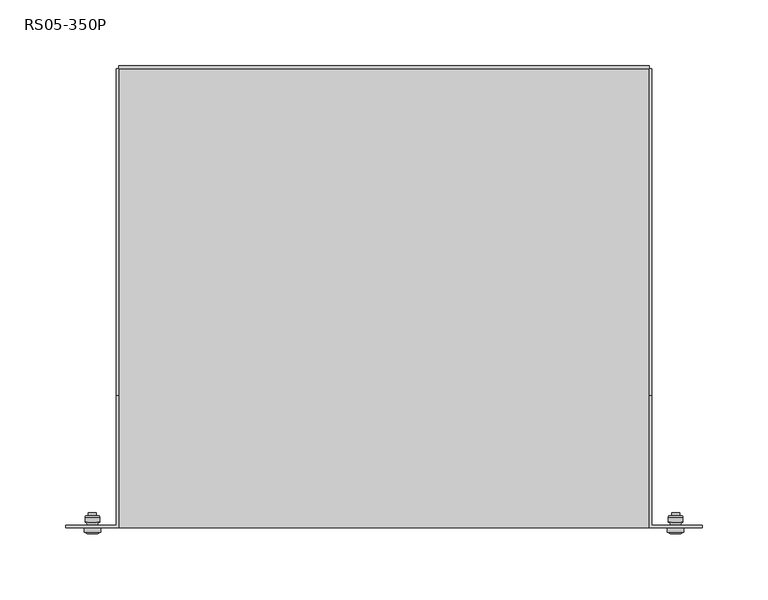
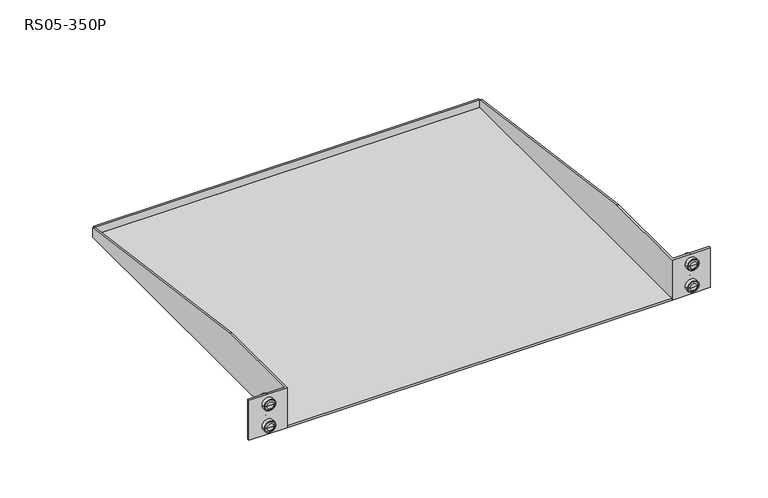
"""IFC4 building model written with IfcOpenShell, lengths in millimetres: proxy geometry, Полки консольные : RS05-350P."""

from ifc_helpers import new_model, si_unit, point, frame, origin, place, context, project, spatial, polyline, circle_curve, ellipse_curve, trimmed, outline, extrude, faceted_brep, source, transform, mapped, element, save
from ifc_brep_helpers import plane_surface, cylinder_surface, revolved_surface, advanced_brep


def rs05_350p_7bdc1934(model_context):
    return source(origin(), model_context, "Body", "SolidModel", [
        advanced_brep(
        [(221.0, -179.3500066, 34.0), (217.5000052, -179.3500066, 34.0), (224.4999948, -179.3500066, 34.0), (223.9999986, -163.7499958, 34.0), (218.0000014, -163.7499958, 34.0), (221.0, -163.7499958, 34.0), (223.9999986, -165.7999933, 34.0), (218.0000014, -165.7999933, 34.0), (225.4999942, -165.7999933, 34.0), (216.5000058, -165.7999933, 34.0), (226.4999948, -166.7999994, 34.0), (215.5000052, -166.7999994, 34.0), (226.4999962, -170.7999994, 34.0), (215.5000038, -170.7999994, 34.0), (225.1733431, -172.9999959, 34.0), (216.8266569, -172.9999959, 34.0), (227.2500015, -175.0, 34.0), (214.7499985, -175.0, 34.0), (216.8266569, -175.0, 34.0), (225.1733431, -175.0, 34.0), (227.2500015, -178.4999996, 34.0), (214.7499985, -178.4999996, 34.0), (226.3781586, -178.4999996, 34.0), (215.6218414, -178.4999996, 34.0)],
        [
            (0, 1),
            (1, 2, circle_curve(frame((221.0, -179.3500066, 34.0), z_axis=(0.0, -1.0, 0.0), x_axis=(-1.0, 0.0, 0.0)), 3.4999948)),
            (2, 0),
            (2, 1, circle_curve(frame((221.0, -179.3500066, 34.0), z_axis=(0.0, -1.0, 0.0), x_axis=(-1.0, 0.0, 0.0)), 3.4999948)),
            (3, 4, circle_curve(frame((221.0, -163.7499958, 34.0), z_axis=(0.0, 1.0, 0.0), x_axis=(-1.0, 0.0, 0.0)), 2.9999986)),
            (4, 5),
            (5, 3),
            (4, 3, circle_curve(frame((221.0, -163.7499958, 34.0), z_axis=(0.0, 1.0, 0.0), x_axis=(-1.0, 0.0, 0.0)), 2.9999986)),
            (6, 7, circle_curve(frame((221.0, -165.7999933, 34.0), z_axis=(0.0, 1.0, 0.0), x_axis=(-1.0, 0.0, 0.0)), 2.9999986)),
            (7, 4),
            (3, 6),
            (7, 6, circle_curve(frame((221.0, -165.7999933, 34.0), z_axis=(0.0, 1.0, 0.0), x_axis=(-1.0, 0.0, 0.0)), 2.9999986)),
            (8, 9, circle_curve(frame((221.0, -165.7999933, 34.0), z_axis=(0.0, 1.0, 0.0), x_axis=(-1.0, 0.0, 0.0)), 4.4999942)),
            (9, 7),
            (6, 8),
            (9, 8, circle_curve(frame((221.0, -165.7999933, 34.0), z_axis=(0.0, 1.0, 0.0), x_axis=(-1.0, 0.0, 0.0)), 4.4999942)),
            (10, 11, circle_curve(frame((221.0, -166.7999994, 34.0), z_axis=(0.0, 1.0, 0.0), x_axis=(-1.0, 0.0, 0.0)), 5.4999948)),
            (11, 9, circle_curve(frame((216.5000052, -166.7999994, 34.0), z_axis=(0.0, 0.0, -1.0), x_axis=(1.0, 0.0, 0.0)), 1.0)),
            (8, 10, circle_curve(frame((225.4999948, -166.7999994, 34.0), z_axis=(0.0, 0.0, -1.0), x_axis=(-1.0, 0.0, 0.0)), 1.0)),
            (11, 10, circle_curve(frame((221.0, -166.7999994, 34.0), z_axis=(0.0, 1.0, 0.0), x_axis=(-1.0, 0.0, 0.0)), 5.4999948)),
            (12, 13, circle_curve(frame((221.0, -170.7999994, 34.0), z_axis=(0.0, 1.0, 0.0), x_axis=(-1.0, 0.0, 0.0)), 5.4999962)),
            (13, 11),
            (10, 12),
            (13, 12, circle_curve(frame((221.0, -170.7999994, 34.0), z_axis=(0.0, 1.0, 0.0), x_axis=(-1.0, 0.0, 0.0)), 5.4999962)),
            (14, 15, circle_curve(frame((221.0, -172.9999959, 34.0), z_axis=(0.0, 1.0, 0.0), x_axis=(-1.0, 0.0, 0.0)), 4.1733431)),
            (15, 13, circle_curve(frame((215.5000052, -172.2999994, 34.0), z_axis=(0.0, 0.0, 1.0), x_axis=(1.0, 0.0, 0.0)), 1.5)),
            (12, 14, circle_curve(frame((226.4999948, -172.2999994, 34.0), z_axis=(0.0, 0.0, 1.0), x_axis=(-1.0, 0.0, 0.0)), 1.5)),
            (15, 14, circle_curve(frame((221.0, -172.9999959, 34.0), z_axis=(0.0, 1.0, 0.0), x_axis=(-1.0, 0.0, 0.0)), 4.1733431)),
            (16, 17, circle_curve(frame((221.0, -175.0, 34.0), z_axis=(0.0, 1.0, 0.0), x_axis=(-1.0, 0.0, 0.0)), 6.2500015)),
            (17, 18),
            (18, 19, circle_curve(frame((221.0, -175.0, 34.0), z_axis=(0.0, -1.0, 0.0), x_axis=(-1.0, 0.0, 0.0)), 4.1733431)),
            (19, 16),
            (17, 16, circle_curve(frame((221.0, -175.0, 34.0), z_axis=(0.0, 1.0, 0.0), x_axis=(-1.0, 0.0, 0.0)), 6.2500015)),
            (19, 18, circle_curve(frame((221.0, -175.0, 34.0), z_axis=(0.0, -1.0, 0.0), x_axis=(-1.0, 0.0, 0.0)), 4.1733431)),
            (20, 21, circle_curve(frame((221.0, -178.4999996, 34.0), z_axis=(0.0, 1.0, 0.0), x_axis=(-1.0, 0.0, 0.0)), 6.2500015)),
            (21, 17),
            (16, 20),
            (21, 20, circle_curve(frame((221.0, -178.4999996, 34.0), z_axis=(0.0, 1.0, 0.0), x_axis=(-1.0, 0.0, 0.0)), 6.2500015)),
            (22, 23, circle_curve(frame((221.0, -178.4999996, 34.0), z_axis=(0.0, 1.0, 0.0), x_axis=(-1.0, 0.0, 0.0)), 5.3781586)),
            (23, 21),
            (20, 22),
            (23, 22, circle_curve(frame((221.0, -178.4999996, 34.0), z_axis=(0.0, 1.0, 0.0), x_axis=(-1.0, 0.0, 0.0)), 5.3781586)),
            (1, 23, circle_curve(frame((217.5000052, -176.8499994, 34.0), z_axis=(0.0, 0.0, -1.0), x_axis=(1.0, 0.0, 0.0)), 2.5)),
            (22, 2, circle_curve(frame((224.4999948, -176.8499994, 34.0), z_axis=(0.0, 0.0, -1.0), x_axis=(-1.0, 0.0, 0.0)), 2.5)),
            (18, 15),
            (14, 19),
        ],
        [
            plane_surface(frame((221.0, -179.3500066, 34.0), z_axis=(0.0, -1.0, 0.0), x_axis=(-1.0, 0.0, 0.0))),
            plane_surface(frame((221.0, -163.7499958, 34.0), z_axis=(0.0, 1.0, 0.0), x_axis=(-1.0, 0.0, 0.0))),
            cylinder_surface(frame((221.0, 1825.0, 34.0), z_axis=(0.0, -1.0, 0.0), x_axis=(-1.0, 0.0, 0.0)), 2.9999986),
            plane_surface(frame((221.0, -165.7999933, 34.0), z_axis=(0.0, 1.0, 0.0), x_axis=(-1.0, 0.0, 0.0))),
            revolved_surface(trimmed(ellipse_curve(frame((216.5000052, -166.7999994, 34.0), z_axis=(0.0, 0.0, 1.0), x_axis=(1.0, 0.0, 0.0)), 1.0, 1.0), [point((216.5000052, -165.7999994, 34.0))], [point((215.5000052, -166.7999994, 34.0))], True, "CARTESIAN"), (221.0, 1825.0, 34.0), (0.0, -1.0, 0.0)),
            cylinder_surface(frame((221.0, 1825.0, 34.0), z_axis=(0.0, -1.0, 0.0), x_axis=(-1.0, 0.0, 0.0)), 5.4999962),
            revolved_surface(trimmed(ellipse_curve(frame((215.5000052, -172.2999994, 34.0), z_axis=(0.0, 0.0, -1.0), x_axis=(1.0, 0.0, 0.0)), 1.5, 1.5), [point((215.5000038, -170.7999994, 34.0))], [point((216.8266569, -172.9999959, 34.0))], True, "CARTESIAN"), (221.0, 1825.0, 34.0), (0.0, -1.0, 0.0)),
            plane_surface(frame((221.0, -175.0, 34.0), z_axis=(0.0, 1.0, 0.0), x_axis=(-1.0, 0.0, 0.0))),
            cylinder_surface(frame((221.0, 1825.0, 34.0), z_axis=(0.0, -1.0, 0.0), x_axis=(-1.0, 0.0, 0.0)), 6.2500015),
            plane_surface(frame((221.0, -178.4999996, 34.0), z_axis=(0.0, -1.0, 0.0), x_axis=(-1.0, 0.0, 0.0))),
            revolved_surface(trimmed(ellipse_curve(frame((217.5000052, -176.8499994, 34.0), z_axis=(0.0, 0.0, 1.0), x_axis=(1.0, 0.0, 0.0)), 2.5, 2.5), [point((215.6218414, -178.4999996, 34.0))], [point((217.5000052, -179.3499994, 34.0))], True, "CARTESIAN"), (221.0, 1825.0, 34.0), (0.0, -1.0, 0.0)),
            cylinder_surface(frame((221.0, 1825.0, 34.0), z_axis=(0.0, -1.0, 0.0), x_axis=(-1.0, 0.0, 0.0)), 4.1733431),
        ],
        [
            (0, [[1, 2, 3]]),
            (0, [[-3, 4, -1]]),
            (1, [[5, 6, 7]]),
            (1, [[8, -7, -6]]),
            (2, [[9, 10, -5, 11]]),
            (2, [[12, -11, -8, -10]]),
            (3, [[13, 14, -9, 15]]),
            (3, [[16, -15, -12, -14]]),
            (4, [[17, 18, -13, 19]]),
            (4, [[20, -19, -16, -18]]),
            (5, [[21, 22, -17, 23]]),
            (5, [[24, -23, -20, -22]]),
            (6, [[25, 26, -21, 27]]),
            (6, [[28, -27, -24, -26]]),
            (7, [[29, 30, 31, 32]]),
            (7, [[33, -32, 34, -30]]),
            (8, [[35, 36, -29, 37]]),
            (8, [[38, -37, -33, -36]]),
            (9, [[39, 40, -35, 41]]),
            (9, [[42, -41, -38, -40]]),
            (10, [[-2, 43, -39, 44]]),
            (10, [[-4, -44, -42, -43]]),
            (11, [[-31, 45, -25, 46]]),
            (11, [[-34, -46, -28, -45]]),
        ],
    ),
        advanced_brep(
        [(-221.0, -179.3500066, 34.0), (-224.4999948, -179.3500066, 34.0), (-217.5000052, -179.3500066, 34.0), (-218.0000014, -163.7499958, 34.0), (-223.9999986, -163.7499958, 34.0), (-221.0, -163.7499958, 34.0), (-218.0000014, -165.7999933, 34.0), (-223.9999986, -165.7999933, 34.0), (-216.5000058, -165.7999933, 34.0), (-225.4999942, -165.7999933, 34.0), (-215.5000052, -166.7999994, 34.0), (-226.4999948, -166.7999994, 34.0), (-215.5000038, -170.7999994, 34.0), (-226.4999962, -170.7999994, 34.0), (-216.8266569, -172.9999959, 34.0), (-225.1733431, -172.9999959, 34.0), (-214.7499985, -175.0, 34.0), (-227.2500015, -175.0, 34.0), (-225.1733431, -175.0, 34.0), (-216.8266569, -175.0, 34.0), (-214.7499985, -178.4999996, 34.0), (-227.2500015, -178.4999996, 34.0), (-215.6218414, -178.4999996, 34.0), (-226.3781586, -178.4999996, 34.0)],
        [
            (0, 1),
            (1, 2, circle_curve(frame((-221.0, -179.3500066, 34.0), z_axis=(0.0, -1.0, 0.0), x_axis=(-1.0, 0.0, 0.0)), 3.4999948)),
            (2, 0),
            (2, 1, circle_curve(frame((-221.0, -179.3500066, 34.0), z_axis=(0.0, -1.0, 0.0), x_axis=(-1.0, 0.0, 0.0)), 3.4999948)),
            (3, 4, circle_curve(frame((-221.0, -163.7499958, 34.0), z_axis=(0.0, 1.0, 0.0), x_axis=(-1.0, 0.0, 0.0)), 2.9999986)),
            (4, 5),
            (5, 3),
            (4, 3, circle_curve(frame((-221.0, -163.7499958, 34.0), z_axis=(0.0, 1.0, 0.0), x_axis=(-1.0, 0.0, 0.0)), 2.9999986)),
            (6, 7, circle_curve(frame((-221.0, -165.7999933, 34.0), z_axis=(0.0, 1.0, 0.0), x_axis=(-1.0, 0.0, 0.0)), 2.9999986)),
            (7, 4),
            (3, 6),
            (7, 6, circle_curve(frame((-221.0, -165.7999933, 34.0), z_axis=(0.0, 1.0, 0.0), x_axis=(-1.0, 0.0, 0.0)), 2.9999986)),
            (8, 9, circle_curve(frame((-221.0, -165.7999933, 34.0), z_axis=(0.0, 1.0, 0.0), x_axis=(-1.0, 0.0, 0.0)), 4.4999942)),
            (9, 7),
            (6, 8),
            (9, 8, circle_curve(frame((-221.0, -165.7999933, 34.0), z_axis=(0.0, 1.0, 0.0), x_axis=(-1.0, 0.0, 0.0)), 4.4999942)),
            (10, 11, circle_curve(frame((-221.0, -166.7999994, 34.0), z_axis=(0.0, 1.0, 0.0), x_axis=(-1.0, 0.0, 0.0)), 5.4999948)),
            (11, 9, circle_curve(frame((-225.4999948, -166.7999994, 34.0), z_axis=(0.0, 0.0, -1.0), x_axis=(1.0, 0.0, 0.0)), 1.0)),
            (8, 10, circle_curve(frame((-216.5000052, -166.7999994, 34.0), z_axis=(0.0, 0.0, -1.0), x_axis=(-1.0, 0.0, 0.0)), 1.0)),
            (11, 10, circle_curve(frame((-221.0, -166.7999994, 34.0), z_axis=(0.0, 1.0, 0.0), x_axis=(-1.0, 0.0, 0.0)), 5.4999948)),
            (12, 13, circle_curve(frame((-221.0, -170.7999994, 34.0), z_axis=(0.0, 1.0, 0.0), x_axis=(-1.0, 0.0, 0.0)), 5.4999962)),
            (13, 11),
            (10, 12),
            (13, 12, circle_curve(frame((-221.0, -170.7999994, 34.0), z_axis=(0.0, 1.0, 0.0), x_axis=(-1.0, 0.0, 0.0)), 5.4999962)),
            (14, 15, circle_curve(frame((-221.0, -172.9999959, 34.0), z_axis=(0.0, 1.0, 0.0), x_axis=(-1.0, 0.0, 0.0)), 4.1733431)),
            (15, 13, circle_curve(frame((-226.4999948, -172.2999994, 34.0), z_axis=(0.0, 0.0, 1.0), x_axis=(1.0, 0.0, 0.0)), 1.5)),
            (12, 14, circle_curve(frame((-215.5000052, -172.2999994, 34.0), z_axis=(0.0, 0.0, 1.0), x_axis=(-1.0, 0.0, 0.0)), 1.5)),
            (15, 14, circle_curve(frame((-221.0, -172.9999959, 34.0), z_axis=(0.0, 1.0, 0.0), x_axis=(-1.0, 0.0, 0.0)), 4.1733431)),
            (16, 17, circle_curve(frame((-221.0, -175.0, 34.0), z_axis=(0.0, 1.0, 0.0), x_axis=(-1.0, 0.0, 0.0)), 6.2500015)),
            (17, 18),
            (18, 19, circle_curve(frame((-221.0, -175.0, 34.0), z_axis=(0.0, -1.0, 0.0), x_axis=(-1.0, 0.0, 0.0)), 4.1733431)),
            (19, 16),
            (17, 16, circle_curve(frame((-221.0, -175.0, 34.0), z_axis=(0.0, 1.0, 0.0), x_axis=(-1.0, 0.0, 0.0)), 6.2500015)),
            (19, 18, circle_curve(frame((-221.0, -175.0, 34.0), z_axis=(0.0, -1.0, 0.0), x_axis=(-1.0, 0.0, 0.0)), 4.1733431)),
            (20, 21, circle_curve(frame((-221.0, -178.4999996, 34.0), z_axis=(0.0, 1.0, 0.0), x_axis=(-1.0, 0.0, 0.0)), 6.2500015)),
            (21, 17),
            (16, 20),
            (21, 20, circle_curve(frame((-221.0, -178.4999996, 34.0), z_axis=(0.0, 1.0, 0.0), x_axis=(-1.0, 0.0, 0.0)), 6.2500015)),
            (22, 23, circle_curve(frame((-221.0, -178.4999996, 34.0), z_axis=(0.0, 1.0, 0.0), x_axis=(-1.0, 0.0, 0.0)), 5.3781586)),
            (23, 21),
            (20, 22),
            (23, 22, circle_curve(frame((-221.0, -178.4999996, 34.0), z_axis=(0.0, 1.0, 0.0), x_axis=(-1.0, 0.0, 0.0)), 5.3781586)),
            (1, 23, circle_curve(frame((-224.4999948, -176.8499994, 34.0), z_axis=(0.0, 0.0, -1.0), x_axis=(1.0, 0.0, 0.0)), 2.5)),
            (22, 2, circle_curve(frame((-217.5000052, -176.8499994, 34.0), z_axis=(0.0, 0.0, -1.0), x_axis=(-1.0, 0.0, 0.0)), 2.5)),
            (18, 15),
            (14, 19),
        ],
        [
            plane_surface(frame((-221.0, -179.3500066, 34.0), z_axis=(0.0, -1.0, 0.0), x_axis=(-1.0, 0.0, 0.0))),
            plane_surface(frame((-221.0, -163.7499958, 34.0), z_axis=(0.0, 1.0, 0.0), x_axis=(-1.0, 0.0, 0.0))),
            cylinder_surface(frame((-221.0, 1825.0, 34.0), z_axis=(0.0, -1.0, 0.0), x_axis=(-1.0, 0.0, 0.0)), 2.9999986),
            plane_surface(frame((-221.0, -165.7999933, 34.0), z_axis=(0.0, 1.0, 0.0), x_axis=(-1.0, 0.0, 0.0))),
            revolved_surface(trimmed(ellipse_curve(frame((-225.4999948, -166.7999994, 34.0), z_axis=(0.0, 0.0, 1.0), x_axis=(1.0, 0.0, 0.0)), 1.0, 1.0), [point((-225.4999948, -165.7999994, 34.0))], [point((-226.4999948, -166.7999994, 34.0))], True, "CARTESIAN"), (-221.0, 1825.0, 34.0), (0.0, -1.0, 0.0)),
            cylinder_surface(frame((-221.0, 1825.0, 34.0), z_axis=(0.0, -1.0, 0.0), x_axis=(-1.0, 0.0, 0.0)), 5.4999962),
            revolved_surface(trimmed(ellipse_curve(frame((-226.4999948, -172.2999994, 34.0), z_axis=(0.0, 0.0, -1.0), x_axis=(1.0, 0.0, 0.0)), 1.5, 1.5), [point((-226.4999962, -170.7999994, 34.0))], [point((-225.1733431, -172.9999959, 34.0))], True, "CARTESIAN"), (-221.0, 1825.0, 34.0), (0.0, -1.0, 0.0)),
            plane_surface(frame((-221.0, -175.0, 34.0), z_axis=(0.0, 1.0, 0.0), x_axis=(-1.0, 0.0, 0.0))),
            cylinder_surface(frame((-221.0, 1825.0, 34.0), z_axis=(0.0, -1.0, 0.0), x_axis=(-1.0, 0.0, 0.0)), 6.2500015),
            plane_surface(frame((-221.0, -178.4999996, 34.0), z_axis=(0.0, -1.0, 0.0), x_axis=(-1.0, 0.0, 0.0))),
            revolved_surface(trimmed(ellipse_curve(frame((-224.4999948, -176.8499994, 34.0), z_axis=(0.0, 0.0, 1.0), x_axis=(1.0, 0.0, 0.0)), 2.5, 2.5), [point((-226.3781586, -178.4999996, 34.0))], [point((-224.4999948, -179.3499994, 34.0))], True, "CARTESIAN"), (-221.0, 1825.0, 34.0), (0.0, -1.0, 0.0)),
            cylinder_surface(frame((-221.0, 1825.0, 34.0), z_axis=(0.0, -1.0, 0.0), x_axis=(-1.0, 0.0, 0.0)), 4.1733431),
        ],
        [
            (0, [[1, 2, 3]]),
            (0, [[-3, 4, -1]]),
            (1, [[5, 6, 7]]),
            (1, [[8, -7, -6]]),
            (2, [[9, 10, -5, 11]]),
            (2, [[12, -11, -8, -10]]),
            (3, [[13, 14, -9, 15]]),
            (3, [[16, -15, -12, -14]]),
            (4, [[17, 18, -13, 19]]),
            (4, [[20, -19, -16, -18]]),
            (5, [[21, 22, -17, 23]]),
            (5, [[24, -23, -20, -22]]),
            (6, [[25, 26, -21, 27]]),
            (6, [[28, -27, -24, -26]]),
            (7, [[29, 30, 31, 32]]),
            (7, [[33, -32, 34, -30]]),
            (8, [[35, 36, -29, 37]]),
            (8, [[38, -37, -33, -36]]),
            (9, [[39, 40, -35, 41]]),
            (9, [[42, -41, -38, -40]]),
            (10, [[-2, 43, -39, 44]]),
            (10, [[-4, -44, -42, -43]]),
            (11, [[-31, 45, -25, 46]]),
            (11, [[-34, -46, -28, -45]]),
        ],
    ),
        advanced_brep(
        [(221.0, -179.3500066, 10.0), (217.5000052, -179.3500066, 10.0), (224.4999948, -179.3500066, 10.0), (223.9999986, -163.7499958, 10.0), (218.0000014, -163.7499958, 10.0), (221.0, -163.7499958, 10.0), (223.9999986, -165.7999933, 10.0), (218.0000014, -165.7999933, 10.0), (225.4999942, -165.7999933, 10.0), (216.5000058, -165.7999933, 10.0), (226.4999948, -166.7999994, 10.0), (215.5000052, -166.7999994, 10.0), (226.4999962, -170.7999994, 10.0), (215.5000038, -170.7999994, 10.0), (225.1733431, -172.9999959, 10.0), (216.8266569, -172.9999959, 10.0), (227.2500015, -175.0, 10.0), (214.7499985, -175.0, 10.0), (216.8266569, -175.0, 10.0), (225.1733431, -175.0, 10.0), (227.2500015, -178.4999996, 10.0), (214.7499985, -178.4999996, 10.0), (226.3781586, -178.4999996, 10.0), (215.6218414, -178.4999996, 10.0)],
        [
            (0, 1),
            (1, 2, circle_curve(frame((221.0, -179.3500066, 10.0), z_axis=(0.0, -1.0, 0.0), x_axis=(-1.0, 0.0, 0.0)), 3.4999948)),
            (2, 0),
            (2, 1, circle_curve(frame((221.0, -179.3500066, 10.0), z_axis=(0.0, -1.0, 0.0), x_axis=(-1.0, 0.0, 0.0)), 3.4999948)),
            (3, 4, circle_curve(frame((221.0, -163.7499958, 10.0), z_axis=(0.0, 1.0, 0.0), x_axis=(-1.0, 0.0, 0.0)), 2.9999986)),
            (4, 5),
            (5, 3),
            (4, 3, circle_curve(frame((221.0, -163.7499958, 10.0), z_axis=(0.0, 1.0, 0.0), x_axis=(-1.0, 0.0, 0.0)), 2.9999986)),
            (6, 7, circle_curve(frame((221.0, -165.7999933, 10.0), z_axis=(0.0, 1.0, 0.0), x_axis=(-1.0, 0.0, 0.0)), 2.9999986)),
            (7, 4),
            (3, 6),
            (7, 6, circle_curve(frame((221.0, -165.7999933, 10.0), z_axis=(0.0, 1.0, 0.0), x_axis=(-1.0, 0.0, 0.0)), 2.9999986)),
            (8, 9, circle_curve(frame((221.0, -165.7999933, 10.0), z_axis=(0.0, 1.0, 0.0), x_axis=(-1.0, 0.0, 0.0)), 4.4999942)),
            (9, 7),
            (6, 8),
            (9, 8, circle_curve(frame((221.0, -165.7999933, 10.0), z_axis=(0.0, 1.0, 0.0), x_axis=(-1.0, 0.0, 0.0)), 4.4999942)),
            (10, 11, circle_curve(frame((221.0, -166.7999994, 10.0), z_axis=(0.0, 1.0, 0.0), x_axis=(-1.0, 0.0, 0.0)), 5.4999948)),
            (11, 9, circle_curve(frame((216.5000052, -166.7999994, 10.0), z_axis=(0.0, 0.0, -1.0), x_axis=(1.0, 0.0, 0.0)), 1.0)),
            (8, 10, circle_curve(frame((225.4999948, -166.7999994, 10.0), z_axis=(0.0, 0.0, -1.0), x_axis=(-1.0, 0.0, 0.0)), 1.0)),
            (11, 10, circle_curve(frame((221.0, -166.7999994, 10.0), z_axis=(0.0, 1.0, 0.0), x_axis=(-1.0, 0.0, 0.0)), 5.4999948)),
            (12, 13, circle_curve(frame((221.0, -170.7999994, 10.0), z_axis=(0.0, 1.0, 0.0), x_axis=(-1.0, 0.0, 0.0)), 5.4999962)),
            (13, 11),
            (10, 12),
            (13, 12, circle_curve(frame((221.0, -170.7999994, 10.0), z_axis=(0.0, 1.0, 0.0), x_axis=(-1.0, 0.0, 0.0)), 5.4999962)),
            (14, 15, circle_curve(frame((221.0, -172.9999959, 10.0), z_axis=(0.0, 1.0, 0.0), x_axis=(-1.0, 0.0, 0.0)), 4.1733431)),
            (15, 13, circle_curve(frame((215.5000052, -172.2999994, 10.0), z_axis=(0.0, 0.0, 1.0), x_axis=(1.0, 0.0, 0.0)), 1.5)),
            (12, 14, circle_curve(frame((226.4999948, -172.2999994, 10.0), z_axis=(0.0, 0.0, 1.0), x_axis=(-1.0, 0.0, 0.0)), 1.5)),
            (15, 14, circle_curve(frame((221.0, -172.9999959, 10.0), z_axis=(0.0, 1.0, 0.0), x_axis=(-1.0, 0.0, 0.0)), 4.1733431)),
            (16, 17, circle_curve(frame((221.0, -175.0, 10.0), z_axis=(0.0, 1.0, 0.0), x_axis=(-1.0, 0.0, 0.0)), 6.2500015)),
            (17, 18),
            (18, 19, circle_curve(frame((221.0, -175.0, 10.0), z_axis=(0.0, -1.0, 0.0), x_axis=(-1.0, 0.0, 0.0)), 4.1733431)),
            (19, 16),
            (17, 16, circle_curve(frame((221.0, -175.0, 10.0), z_axis=(0.0, 1.0, 0.0), x_axis=(-1.0, 0.0, 0.0)), 6.2500015)),
            (19, 18, circle_curve(frame((221.0, -175.0, 10.0), z_axis=(0.0, -1.0, 0.0), x_axis=(-1.0, 0.0, 0.0)), 4.1733431)),
            (20, 21, circle_curve(frame((221.0, -178.4999996, 10.0), z_axis=(0.0, 1.0, 0.0), x_axis=(-1.0, 0.0, 0.0)), 6.2500015)),
            (21, 17),
            (16, 20),
            (21, 20, circle_curve(frame((221.0, -178.4999996, 10.0), z_axis=(0.0, 1.0, 0.0), x_axis=(-1.0, 0.0, 0.0)), 6.2500015)),
            (22, 23, circle_curve(frame((221.0, -178.4999996, 10.0), z_axis=(0.0, 1.0, 0.0), x_axis=(-1.0, 0.0, 0.0)), 5.3781586)),
            (23, 21),
            (20, 22),
            (23, 22, circle_curve(frame((221.0, -178.4999996, 10.0), z_axis=(0.0, 1.0, 0.0), x_axis=(-1.0, 0.0, 0.0)), 5.3781586)),
            (1, 23, circle_curve(frame((217.5000052, -176.8499994, 10.0), z_axis=(0.0, 0.0, -1.0), x_axis=(1.0, 0.0, 0.0)), 2.5)),
            (22, 2, circle_curve(frame((224.4999948, -176.8499994, 10.0), z_axis=(0.0, 0.0, -1.0), x_axis=(-1.0, 0.0, 0.0)), 2.5)),
            (18, 15),
            (14, 19),
        ],
        [
            plane_surface(frame((221.0, -179.3500066, 10.0), z_axis=(0.0, -1.0, 0.0), x_axis=(-1.0, 0.0, 0.0))),
            plane_surface(frame((221.0, -163.7499958, 10.0), z_axis=(0.0, 1.0, 0.0), x_axis=(-1.0, 0.0, 0.0))),
            cylinder_surface(frame((221.0, 1825.0, 10.0), z_axis=(0.0, -1.0, 0.0), x_axis=(-1.0, 0.0, 0.0)), 2.9999986),
            plane_surface(frame((221.0, -165.7999933, 10.0), z_axis=(0.0, 1.0, 0.0), x_axis=(-1.0, 0.0, 0.0))),
            revolved_surface(trimmed(ellipse_curve(frame((216.5000052, -166.7999994, 10.0), z_axis=(0.0, 0.0, 1.0), x_axis=(1.0, 0.0, 0.0)), 1.0, 1.0), [point((216.5000052, -165.7999994, 10.0))], [point((215.5000052, -166.7999994, 10.0))], True, "CARTESIAN"), (221.0, 1825.0, 10.0), (0.0, -1.0, 0.0)),
            cylinder_surface(frame((221.0, 1825.0, 10.0), z_axis=(0.0, -1.0, 0.0), x_axis=(-1.0, 0.0, 0.0)), 5.4999962),
            revolved_surface(trimmed(ellipse_curve(frame((215.5000052, -172.2999994, 10.0), z_axis=(0.0, 0.0, -1.0), x_axis=(1.0, 0.0, 0.0)), 1.5, 1.5), [point((215.5000038, -170.7999994, 10.0))], [point((216.8266569, -172.9999959, 10.0))], True, "CARTESIAN"), (221.0, 1825.0, 10.0), (0.0, -1.0, 0.0)),
            plane_surface(frame((221.0, -175.0, 10.0), z_axis=(0.0, 1.0, 0.0), x_axis=(-1.0, 0.0, 0.0))),
            cylinder_surface(frame((221.0, 1825.0, 10.0), z_axis=(0.0, -1.0, 0.0), x_axis=(-1.0, 0.0, 0.0)), 6.2500015),
            plane_surface(frame((221.0, -178.4999996, 10.0), z_axis=(0.0, -1.0, 0.0), x_axis=(-1.0, 0.0, 0.0))),
            revolved_surface(trimmed(ellipse_curve(frame((217.5000052, -176.8499994, 10.0), z_axis=(0.0, 0.0, 1.0), x_axis=(1.0, 0.0, 0.0)), 2.5, 2.5), [point((215.6218414, -178.4999996, 10.0))], [point((217.5000052, -179.3499994, 10.0))], True, "CARTESIAN"), (221.0, 1825.0, 10.0), (0.0, -1.0, 0.0)),
            cylinder_surface(frame((221.0, 1825.0, 10.0), z_axis=(0.0, -1.0, 0.0), x_axis=(-1.0, 0.0, 0.0)), 4.1733431),
        ],
        [
            (0, [[1, 2, 3]]),
            (0, [[-3, 4, -1]]),
            (1, [[5, 6, 7]]),
            (1, [[8, -7, -6]]),
            (2, [[9, 10, -5, 11]]),
            (2, [[12, -11, -8, -10]]),
            (3, [[13, 14, -9, 15]]),
            (3, [[16, -15, -12, -14]]),
            (4, [[17, 18, -13, 19]]),
            (4, [[20, -19, -16, -18]]),
            (5, [[21, 22, -17, 23]]),
            (5, [[24, -23, -20, -22]]),
            (6, [[25, 26, -21, 27]]),
            (6, [[28, -27, -24, -26]]),
            (7, [[29, 30, 31, 32]]),
            (7, [[33, -32, 34, -30]]),
            (8, [[35, 36, -29, 37]]),
            (8, [[38, -37, -33, -36]]),
            (9, [[39, 40, -35, 41]]),
            (9, [[42, -41, -38, -40]]),
            (10, [[-2, 43, -39, 44]]),
            (10, [[-4, -44, -42, -43]]),
            (11, [[-31, 45, -25, 46]]),
            (11, [[-34, -46, -28, -45]]),
        ],
    ),
        advanced_brep(
        [(-221.0, -179.3500066, 10.0), (-224.4999948, -179.3500066, 10.0), (-217.5000052, -179.3500066, 10.0), (-218.0000014, -163.7499958, 10.0), (-223.9999986, -163.7499958, 10.0), (-221.0, -163.7499958, 10.0), (-218.0000014, -165.7999933, 10.0), (-223.9999986, -165.7999933, 10.0), (-216.5000058, -165.7999933, 10.0), (-225.4999942, -165.7999933, 10.0), (-215.5000052, -166.7999994, 10.0), (-226.4999948, -166.7999994, 10.0), (-215.5000038, -170.7999994, 10.0), (-226.4999962, -170.7999994, 10.0), (-216.8266569, -172.9999959, 10.0), (-225.1733431, -172.9999959, 10.0), (-214.7499985, -175.0, 10.0), (-227.2500015, -175.0, 10.0), (-225.1733431, -175.0, 10.0), (-216.8266569, -175.0, 10.0), (-214.7499985, -178.4999996, 10.0), (-227.2500015, -178.4999996, 10.0), (-215.6218414, -178.4999996, 10.0), (-226.3781586, -178.4999996, 10.0)],
        [
            (0, 1),
            (1, 2, circle_curve(frame((-221.0, -179.3500066, 10.0), z_axis=(0.0, -1.0, 0.0), x_axis=(-1.0, 0.0, 0.0)), 3.4999948)),
            (2, 0),
            (2, 1, circle_curve(frame((-221.0, -179.3500066, 10.0), z_axis=(0.0, -1.0, 0.0), x_axis=(-1.0, 0.0, 0.0)), 3.4999948)),
            (3, 4, circle_curve(frame((-221.0, -163.7499958, 10.0), z_axis=(0.0, 1.0, 0.0), x_axis=(-1.0, 0.0, 0.0)), 2.9999986)),
            (4, 5),
            (5, 3),
            (4, 3, circle_curve(frame((-221.0, -163.7499958, 10.0), z_axis=(0.0, 1.0, 0.0), x_axis=(-1.0, 0.0, 0.0)), 2.9999986)),
            (6, 7, circle_curve(frame((-221.0, -165.7999933, 10.0), z_axis=(0.0, 1.0, 0.0), x_axis=(-1.0, 0.0, 0.0)), 2.9999986)),
            (7, 4),
            (3, 6),
            (7, 6, circle_curve(frame((-221.0, -165.7999933, 10.0), z_axis=(0.0, 1.0, 0.0), x_axis=(-1.0, 0.0, 0.0)), 2.9999986)),
            (8, 9, circle_curve(frame((-221.0, -165.7999933, 10.0), z_axis=(0.0, 1.0, 0.0), x_axis=(-1.0, 0.0, 0.0)), 4.4999942)),
            (9, 7),
            (6, 8),
            (9, 8, circle_curve(frame((-221.0, -165.7999933, 10.0), z_axis=(0.0, 1.0, 0.0), x_axis=(-1.0, 0.0, 0.0)), 4.4999942)),
            (10, 11, circle_curve(frame((-221.0, -166.7999994, 10.0), z_axis=(0.0, 1.0, 0.0), x_axis=(-1.0, 0.0, 0.0)), 5.4999948)),
            (11, 9, circle_curve(frame((-225.4999948, -166.7999994, 10.0), z_axis=(0.0, 0.0, -1.0), x_axis=(1.0, 0.0, 0.0)), 1.0)),
            (8, 10, circle_curve(frame((-216.5000052, -166.7999994, 10.0), z_axis=(0.0, 0.0, -1.0), x_axis=(-1.0, 0.0, 0.0)), 1.0)),
            (11, 10, circle_curve(frame((-221.0, -166.7999994, 10.0), z_axis=(0.0, 1.0, 0.0), x_axis=(-1.0, 0.0, 0.0)), 5.4999948)),
            (12, 13, circle_curve(frame((-221.0, -170.7999994, 10.0), z_axis=(0.0, 1.0, 0.0), x_axis=(-1.0, 0.0, 0.0)), 5.4999962)),
            (13, 11),
            (10, 12),
            (13, 12, circle_curve(frame((-221.0, -170.7999994, 10.0), z_axis=(0.0, 1.0, 0.0), x_axis=(-1.0, 0.0, 0.0)), 5.4999962)),
            (14, 15, circle_curve(frame((-221.0, -172.9999959, 10.0), z_axis=(0.0, 1.0, 0.0), x_axis=(-1.0, 0.0, 0.0)), 4.1733431)),
            (15, 13, circle_curve(frame((-226.4999948, -172.2999994, 10.0), z_axis=(0.0, 0.0, 1.0), x_axis=(1.0, 0.0, 0.0)), 1.5)),
            (12, 14, circle_curve(frame((-215.5000052, -172.2999994, 10.0), z_axis=(0.0, 0.0, 1.0), x_axis=(-1.0, 0.0, 0.0)), 1.5)),
            (15, 14, circle_curve(frame((-221.0, -172.9999959, 10.0), z_axis=(0.0, 1.0, 0.0), x_axis=(-1.0, 0.0, 0.0)), 4.1733431)),
            (16, 17, circle_curve(frame((-221.0, -175.0, 10.0), z_axis=(0.0, 1.0, 0.0), x_axis=(-1.0, 0.0, 0.0)), 6.2500015)),
            (17, 18),
            (18, 19, circle_curve(frame((-221.0, -175.0, 10.0), z_axis=(0.0, -1.0, 0.0), x_axis=(-1.0, 0.0, 0.0)), 4.1733431)),
            (19, 16),
            (17, 16, circle_curve(frame((-221.0, -175.0, 10.0), z_axis=(0.0, 1.0, 0.0), x_axis=(-1.0, 0.0, 0.0)), 6.2500015)),
            (19, 18, circle_curve(frame((-221.0, -175.0, 10.0), z_axis=(0.0, -1.0, 0.0), x_axis=(-1.0, 0.0, 0.0)), 4.1733431)),
            (20, 21, circle_curve(frame((-221.0, -178.4999996, 10.0), z_axis=(0.0, 1.0, 0.0), x_axis=(-1.0, 0.0, 0.0)), 6.2500015)),
            (21, 17),
            (16, 20),
            (21, 20, circle_curve(frame((-221.0, -178.4999996, 10.0), z_axis=(0.0, 1.0, 0.0), x_axis=(-1.0, 0.0, 0.0)), 6.2500015)),
            (22, 23, circle_curve(frame((-221.0, -178.4999996, 10.0), z_axis=(0.0, 1.0, 0.0), x_axis=(-1.0, 0.0, 0.0)), 5.3781586)),
            (23, 21),
            (20, 22),
            (23, 22, circle_curve(frame((-221.0, -178.4999996, 10.0), z_axis=(0.0, 1.0, 0.0), x_axis=(-1.0, 0.0, 0.0)), 5.3781586)),
            (1, 23, circle_curve(frame((-224.4999948, -176.8499994, 10.0), z_axis=(0.0, 0.0, -1.0), x_axis=(1.0, 0.0, 0.0)), 2.5)),
            (22, 2, circle_curve(frame((-217.5000052, -176.8499994, 10.0), z_axis=(0.0, 0.0, -1.0), x_axis=(-1.0, 0.0, 0.0)), 2.5)),
            (18, 15),
            (14, 19),
        ],
        [
            plane_surface(frame((-221.0, -179.3500066, 10.0), z_axis=(0.0, -1.0, 0.0), x_axis=(-1.0, 0.0, 0.0))),
            plane_surface(frame((-221.0, -163.7499958, 10.0), z_axis=(0.0, 1.0, 0.0), x_axis=(-1.0, 0.0, 0.0))),
            cylinder_surface(frame((-221.0, 1825.0, 10.0), z_axis=(0.0, -1.0, 0.0), x_axis=(-1.0, 0.0, 0.0)), 2.9999986),
            plane_surface(frame((-221.0, -165.7999933, 10.0), z_axis=(0.0, 1.0, 0.0), x_axis=(-1.0, 0.0, 0.0))),
            revolved_surface(trimmed(ellipse_curve(frame((-225.4999948, -166.7999994, 10.0), z_axis=(0.0, 0.0, 1.0), x_axis=(1.0, 0.0, 0.0)), 1.0, 1.0), [point((-225.4999948, -165.7999994, 10.0))], [point((-226.4999948, -166.7999994, 10.0))], True, "CARTESIAN"), (-221.0, 1825.0, 10.0), (0.0, -1.0, 0.0)),
            cylinder_surface(frame((-221.0, 1825.0, 10.0), z_axis=(0.0, -1.0, 0.0), x_axis=(-1.0, 0.0, 0.0)), 5.4999962),
            revolved_surface(trimmed(ellipse_curve(frame((-226.4999948, -172.2999994, 10.0), z_axis=(0.0, 0.0, -1.0), x_axis=(1.0, 0.0, 0.0)), 1.5, 1.5), [point((-226.4999962, -170.7999994, 10.0))], [point((-225.1733431, -172.9999959, 10.0))], True, "CARTESIAN"), (-221.0, 1825.0, 10.0), (0.0, -1.0, 0.0)),
            plane_surface(frame((-221.0, -175.0, 10.0), z_axis=(0.0, 1.0, 0.0), x_axis=(-1.0, 0.0, 0.0))),
            cylinder_surface(frame((-221.0, 1825.0, 10.0), z_axis=(0.0, -1.0, 0.0), x_axis=(-1.0, 0.0, 0.0)), 6.2500015),
            plane_surface(frame((-221.0, -178.4999996, 10.0), z_axis=(0.0, -1.0, 0.0), x_axis=(-1.0, 0.0, 0.0))),
            revolved_surface(trimmed(ellipse_curve(frame((-224.4999948, -176.8499994, 10.0), z_axis=(0.0, 0.0, 1.0), x_axis=(1.0, 0.0, 0.0)), 2.5, 2.5), [point((-226.3781586, -178.4999996, 10.0))], [point((-224.4999948, -179.3499994, 10.0))], True, "CARTESIAN"), (-221.0, 1825.0, 10.0), (0.0, -1.0, 0.0)),
            cylinder_surface(frame((-221.0, 1825.0, 10.0), z_axis=(0.0, -1.0, 0.0), x_axis=(-1.0, 0.0, 0.0)), 4.1733431),
        ],
        [
            (0, [[1, 2, 3]]),
            (0, [[-3, 4, -1]]),
            (1, [[5, 6, 7]]),
            (1, [[8, -7, -6]]),
            (2, [[9, 10, -5, 11]]),
            (2, [[12, -11, -8, -10]]),
            (3, [[13, 14, -9, 15]]),
            (3, [[16, -15, -12, -14]]),
            (4, [[17, 18, -13, 19]]),
            (4, [[20, -19, -16, -18]]),
            (5, [[21, 22, -17, 23]]),
            (5, [[24, -23, -20, -22]]),
            (6, [[25, 26, -21, 27]]),
            (6, [[28, -27, -24, -26]]),
            (7, [[29, 30, 31, 32]]),
            (7, [[33, -32, 34, -30]]),
            (8, [[35, 36, -29, 37]]),
            (8, [[38, -37, -33, -36]]),
            (9, [[39, 40, -35, 41]]),
            (9, [[42, -41, -38, -40]]),
            (10, [[-2, 43, -39, 44]]),
            (10, [[-4, -44, -42, -43]]),
            (11, [[-31, 45, -25, 46]]),
            (11, [[-34, -46, -28, -45]]),
        ],
    ),
        faceted_brep([(-201.0, 173.0, 0.0), (-201.0, 173.0, 10.0), (-201.0, -75.0, 44.0), (-201.0, -175.0, 44.0), (-201.0, -175.0, 0.0), (-203.0, -75.0, 44.0), (-203.0, 173.0, 10.0), (-203.0, 173.0, 0.0), (-203.0, -173.0, 0.0), (-203.0, -173.0, 44.0), (-241.0, -173.0, 44.0), (-241.0, -175.0, 44.0), (-241.0, -175.0, 0.0), (-241.0, -173.0, 0.0)], [[[0, 1, 2, 3, 4]], [[5, 6, 7, 8, 9]], [[1, 0, 7, 6]], [[3, 2, 5, 9, 10, 11]], [[4, 3, 11, 12]], [[0, 4, 12, 13, 8, 7]], [[2, 1, 6, 5]], [[10, 9, 8, 13]], [[11, 10, 13, 12]]]),
        faceted_brep([(241.0, -173.0, 44.0), (203.0, -173.0, 44.0), (203.0, -75.0, 44.0), (201.0, -75.0, 44.0), (201.0, -175.0, 44.0), (241.0, -175.0, 44.0), (241.0, -173.0, 0.0), (241.0, -175.0, 0.0), (201.0, -175.0, 0.0), (201.0, 173.0, 0.0), (203.0, 173.0, 0.0), (203.0, -173.0, 0.0), (201.0, 173.0, 10.0), (203.0, 173.0, 10.0)], [[[0, 1, 2, 3, 4, 5]], [[6, 7, 8, 9, 10, 11]], [[1, 0, 6, 11]], [[5, 4, 8, 7]], [[0, 5, 7, 6]], [[9, 8, 4, 3, 12]], [[10, 13, 2, 1, 11]], [[9, 12, 13, 10]], [[12, 3, 2, 13]]]),
        extrude(outline(polyline([(-175.0, 2.0), (173.0, 2.0), (173.0, 10.0), (175.0, 10.0), (175.0, 0.0), (-175.0, 0.0), (-175.0, 2.0)])), frame((-201.0, 0.0, 0.0), z_axis=(1.0, 0.0, 0.0), x_axis=(0.0, 1.0, 0.0)), (0.0, 0.0, 1.0), 402.0),
    ])


if __name__ == "__main__":
    model = new_model("IFC4")
    model_context = context("Model", 3, world=origin())
    ifc_project = project(units=[si_unit("LENGTHUNIT", "METRE", prefix="MILLI")], contexts=[model_context])
    site = spatial("IfcSite", under=ifc_project)
    building = spatial("IfcBuilding", under=site)
    placement = place(None, origin())
    rs05_350p_shape = rs05_350p_7bdc1934(model_context)
    element("IfcBuildingElementProxy", 1, Name="Полки консольные : RS05-350P", ObjectType="Полки консольные : RS05-350P", at=placement, inside=building, context=model_context, shape_type="MappedRepresentation", body=[
        mapped(rs05_350p_shape, transform((0.0, 0.0, 0.0), x_axis=(1.0, 0.0, 0.0), y_axis=(0.0, 1.0, 0.0), z_axis=(0.0, 0.0, 1.0))),
    ])
    save(model, "model.ifc")
